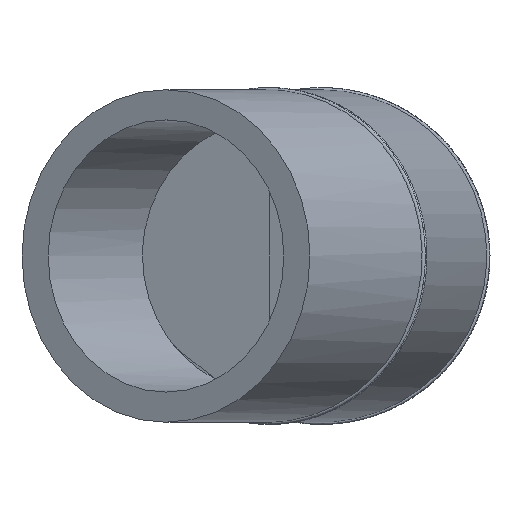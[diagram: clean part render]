
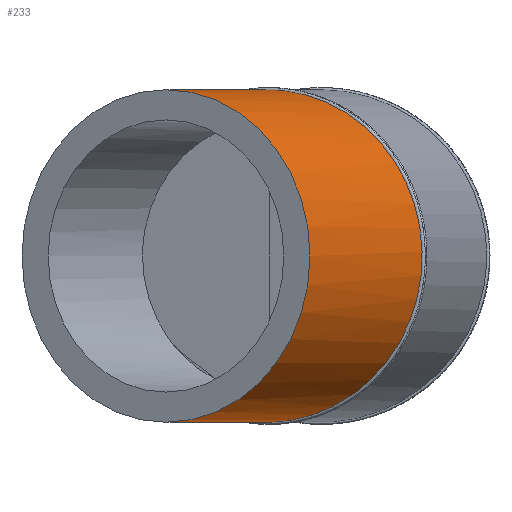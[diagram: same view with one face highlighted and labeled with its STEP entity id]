
A CAD part, front view. The second image highlights one B-rep face of the part: STEP entity #233.
In plain terms, the highlighted cylindrical face has radius 315 mm (diameter 630 mm), a full revolution.
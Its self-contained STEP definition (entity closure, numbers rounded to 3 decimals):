
#37=B_SPLINE_CURVE_WITH_KNOTS('',3,(#396,#397,#398,#399,#400,#401,#402,
#403,#404,#405,#406,#407,#408,#409,#410,#411,#412,#413,#414,#415,#416,#417,
#418,#419,#420,#421,#422,#423,#424,#425,#426,#427,#428,#429,#430),
 .UNSPECIFIED.,.T.,.F.,(1,1,1,1,1,1,1,1,1,1,1,1,1,1,1,1,1,1,1,1,1,1,1,1,
1,1,1,1,1,1,1,1,1,1,1,1,1,1,1),(-0.186,-0.124,-0.062,
0.,0.062,0.124,0.186,
0.249,0.311,0.373,0.435,0.497,
0.559,0.622,0.684,0.746,
0.808,0.87,0.932,0.995,1.057,
1.119,1.181,1.243,1.305,1.368,
1.43,1.492,1.554,1.616,1.678,
1.741,1.803,1.865,1.927,1.989,
2.051,2.114,2.176),.UNSPECIFIED.);
#46=CYLINDRICAL_SURFACE('',#283,315.);
#78=ORIENTED_EDGE('',*,*,#130,.T.);
#79=ORIENTED_EDGE('',*,*,#123,.F.);
#123=EDGE_CURVE('',#149,#149,#169,.T.);
#130=EDGE_CURVE('',#156,#156,#37,.T.);
#149=VERTEX_POINT('',#381);
#156=VERTEX_POINT('',#431);
#169=CIRCLE('',#275,315.);
#175=EDGE_LOOP('',(#78));
#176=EDGE_LOOP('',(#79));
#203=FACE_BOUND('',#175,.T.);
#204=FACE_BOUND('',#176,.T.);
#233=ADVANCED_FACE('',(#203,#204),#46,.T.);
#275=AXIS2_PLACEMENT_3D('',#380,#312,#313);
#283=AXIS2_PLACEMENT_3D('',#395,#328,#329);
#312=DIRECTION('',(0.,1.,0.));
#313=DIRECTION('',(-1.,0.,0.));
#328=DIRECTION('',(0.,1.,0.));
#329=DIRECTION('',(-1.,0.,0.));
#380=CARTESIAN_POINT('',(1454.363,200.,0.));
#381=CARTESIAN_POINT('',(1139.363,200.,0.));
#395=CARTESIAN_POINT('',(1454.363,-232.941,0.));
#396=CARTESIAN_POINT('',(1143.464,-142.504,-62.139));
#397=CARTESIAN_POINT('',(1137.313,-141.696,0.005));
#398=CARTESIAN_POINT('',(1143.461,-142.504,62.118));
#399=CARTESIAN_POINT('',(1161.644,-144.894,121.786));
#400=CARTESIAN_POINT('',(1191.116,-148.768,176.673));
#401=CARTESIAN_POINT('',(1230.682,-153.971,224.667));
#402=CARTESIAN_POINT('',(1278.769,-160.295,263.952));
#403=CARTESIAN_POINT('',(1333.499,-167.494,293.074));
#404=CARTESIAN_POINT('',(1392.776,-175.294,310.974));
#405=CARTESIAN_POINT('',(1454.361,-183.401,317.013));
#406=CARTESIAN_POINT('',(1515.945,-191.51,310.975));
#407=CARTESIAN_POINT('',(1575.22,-199.317,293.077));
#408=CARTESIAN_POINT('',(1629.95,-206.528,263.956));
#409=CARTESIAN_POINT('',(1678.031,-212.865,224.68));
#410=CARTESIAN_POINT('',(1717.61,-218.083,176.675));
#411=CARTESIAN_POINT('',(1747.08,-221.968,121.791));
#412=CARTESIAN_POINT('',(1765.264,-224.366,62.124));
#413=CARTESIAN_POINT('',(1771.412,-225.177,0.01));
#414=CARTESIAN_POINT('',(1765.268,-224.367,-62.104));
#415=CARTESIAN_POINT('',(1747.088,-221.969,-121.772));
#416=CARTESIAN_POINT('',(1717.622,-218.084,-176.656));
#417=CARTESIAN_POINT('',(1678.05,-212.868,-224.662));
#418=CARTESIAN_POINT('',(1629.968,-206.531,-263.944));
#419=CARTESIAN_POINT('',(1575.24,-199.32,-293.069));
#420=CARTESIAN_POINT('',(1515.965,-191.512,-310.971));
#421=CARTESIAN_POINT('',(1454.38,-183.403,-317.013));
#422=CARTESIAN_POINT('',(1392.796,-175.297,-310.978));
#423=CARTESIAN_POINT('',(1333.518,-167.497,-293.082));
#424=CARTESIAN_POINT('',(1278.787,-160.297,-263.963));
#425=CARTESIAN_POINT('',(1230.703,-153.973,-224.688));
#426=CARTESIAN_POINT('',(1191.122,-148.769,-176.683));
#427=CARTESIAN_POINT('',(1161.65,-144.895,-121.798));
#428=CARTESIAN_POINT('',(1143.464,-142.504,-62.139));
#429=CARTESIAN_POINT('',(1137.313,-141.696,0.005));
#430=CARTESIAN_POINT('',(1143.461,-142.504,62.118));
#431=CARTESIAN_POINT('',(1139.363,-141.965,0.));
